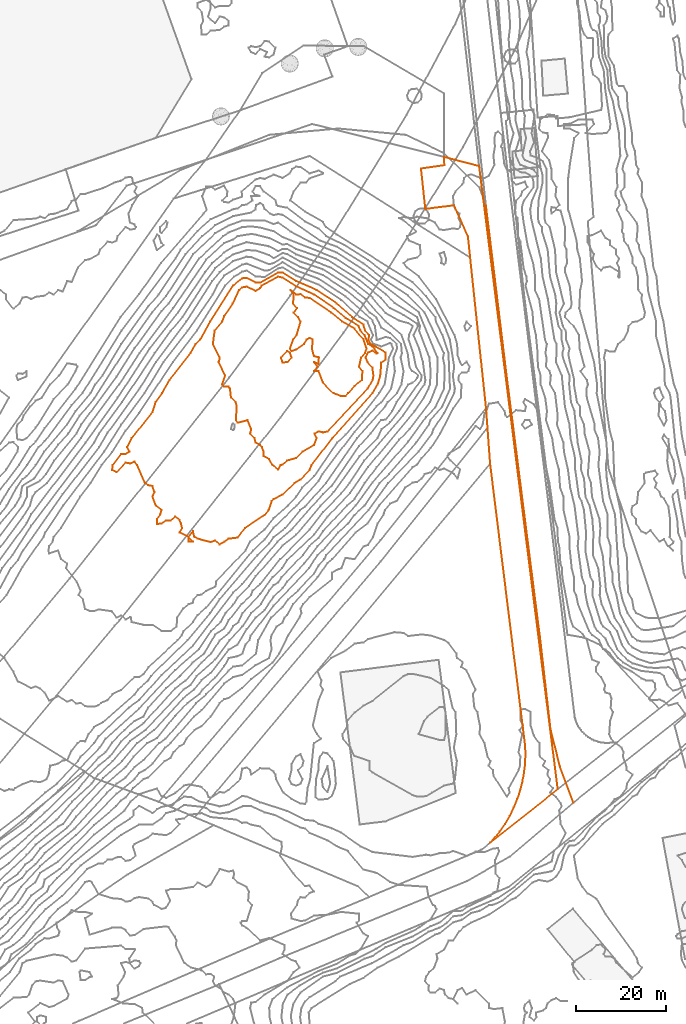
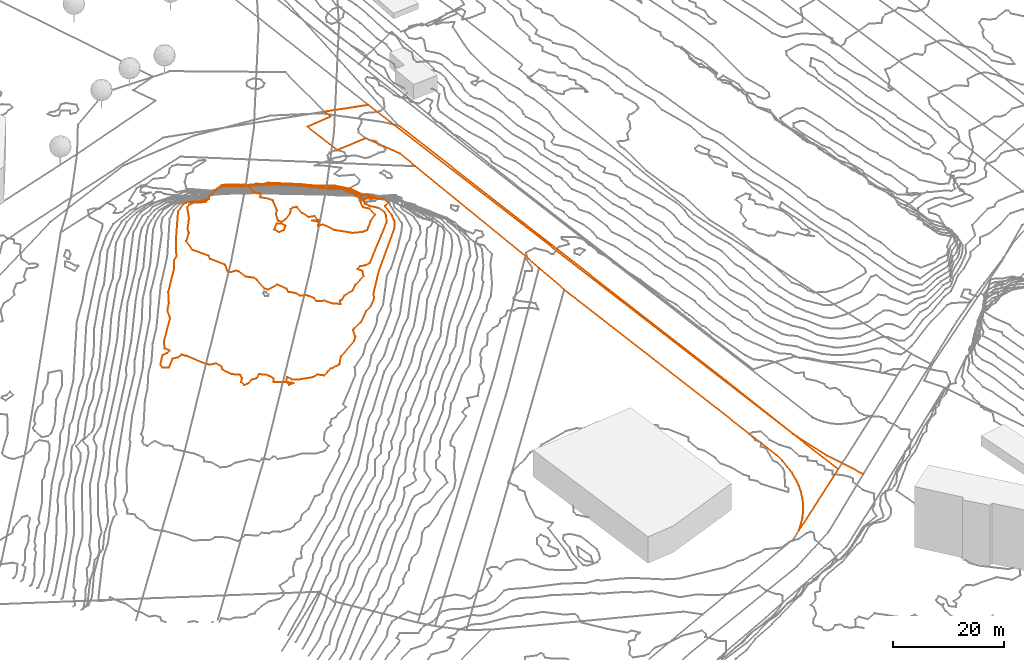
# Not in any storey, part 291 of 419: 6 proxies.
"""IFC2X3 model written with IfcOpenShell, lengths in metres."""

from ifc_helpers import new_model, entity, si_unit, frame, origin_with_axes, place, context, subcontext, project, element, save


model = new_model("IFC2X3")

# Units and contexts
model_context = context("Model", 3, precision=1e-05, world=origin_with_axes())
body_context = subcontext(model_context, "Body", "Model", "MODEL_VIEW")
ifc_project = project(units=[si_unit("AREAUNIT", "SQUARE_METRE"), si_unit("LENGTHUNIT", "METRE")], contexts=[model_context])

# Proxies
proxy_1_placement = place(None, frame((129.3920204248, 826.9976909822, 21.1), z_axis=(0.0, 0.0, 1.0), x_axis=(1.0, 0.0, 0.0)))
element("IfcBuildingElementProxy", 1, at=proxy_1_placement, Name="Route 324", ObjectType="NOTDEFINED", context=body_context, shape_type="GeometricCurveSet", body=[
    entity("IfcGeometricCurveSet", [entity("IfcPolyline", [entity("IfcCartesianPoint", [0.0, 0.0, 0.0]), entity("IfcCartesianPoint", [4.5, -37.0, -0.5]), entity("IfcCartesianPoint", [12.1, -96.6999999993, -1.6]), entity("IfcCartesianPoint", [14.3999999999, -116.7999999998, -1.9]), entity("IfcCartesianPoint", [16.5, -125.2999999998, -2.2]), entity("IfcCartesianPoint", [19.5, -133.2999999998, -2.5])])]),
])
proxy_2_placement = place(None, frame((114.9520204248, 834.9976909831, 21.0961602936), z_axis=(0.0, 0.0, 1.0), x_axis=(1.0, 0.0, 0.0)))
element("IfcBuildingElementProxy", 2, at=proxy_2_placement, Name="Cadastre 384", ObjectType="NOTDEFINED", context=body_context, shape_type="GeometricCurveSet", body=[
    entity("IfcGeometricCurveSet", [entity("IfcPolyline", [entity("IfcCartesianPoint", [15.4, -65.8100000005, -1.2870797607]), entity("IfcCartesianPoint", [14.8100000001, -57.7400000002, -1.2326316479]), entity("IfcCartesianPoint", [14.49, -53.4100000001, -1.1346998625]), entity("IfcCartesianPoint", [10.9500000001, -19.8800000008, -0.4478561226]), entity("IfcCartesianPoint", [10.4600000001, -15.2200000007, -0.3350443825]), entity("IfcCartesianPoint", [7.39, -8.2100000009, -0.1204855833]), entity("IfcCartesianPoint", [0.9600000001, -9.0100000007, 0.0265394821]), entity("IfcCartesianPoint", [0.0, 0.0, 0.0]), entity("IfcCartesianPoint", [5.2100000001, 0.7399999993, -0.0152603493]), entity("IfcCartesianPoint", [5.0800000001, 2.5699999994, 0.0037960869]), entity("IfcCartesianPoint", [12.9500000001, 0.5299999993, -0.0414549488]), entity("IfcCartesianPoint", [30.4600000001, -138.3300000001, -2.0122182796]), entity("IfcCartesianPoint", [15.42, -150.25, -2.9260404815]), entity("IfcCartesianPoint", [17.55, -147.7400000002, -2.673895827]), entity("IfcCartesianPoint", [18.7100000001, -146.0600000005, -2.5531040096]), entity("IfcCartesianPoint", [19.74, -144.29, -2.5109204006]), entity("IfcCartesianPoint", [20.66, -142.4600000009, -2.5761243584]), entity("IfcCartesianPoint", [21.4300000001, -140.5700000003, -2.4609819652]), entity("IfcCartesianPoint", [22.0800000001, -138.6300000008, -2.4031367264]), entity("IfcCartesianPoint", [22.5800000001, -136.6400000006, -2.4181522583]), entity("IfcCartesianPoint", [22.9500000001, -134.6300000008, -2.3727259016]), entity("IfcCartesianPoint", [23.1900000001, -132.5900000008, -2.3193896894]), entity("IfcCartesianPoint", [23.27, -130.5500000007, -2.2561852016]), entity("IfcCartesianPoint", [23.2100000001, -128.7300000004, -2.2255965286]), entity("IfcCartesianPoint", [15.4, -65.8100000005, -1.2870797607])])]),
])
proxy_3_placement = place(None, frame((83.7199280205, 792.8976909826, 35.0), z_axis=(0.0, 0.0, 1.0), x_axis=(1.0, 0.0, 0.0)))
element("IfcBuildingElementProxy", 3, at=proxy_3_placement, Name="Contour 35.0 m", ObjectType="NOTDEFINED", context=body_context, shape_type="GeometricCurveSet", body=[
    entity("IfcGeometricCurveSet", [entity("IfcPolyline", [entity("IfcCartesianPoint", [1.4720943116, -1.0, 0.0]), entity("IfcCartesianPoint", [0.3720924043, -1.1739173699, 0.0]), entity("IfcCartesianPoint", [0.0, 0.0, 0.0]), entity("IfcCartesianPoint", [1.3720924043, 1.4230757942, 0.0]), entity("IfcCartesianPoint", [2.0191472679, 1.0, 0.0]), entity("IfcCartesianPoint", [2.3720979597, 0.0, 0.0]), entity("IfcCartesianPoint", [1.4720943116, -1.0, 0.0])])]),
])
proxy_4_placement = place(None, frame((85.7170224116, 794.8976909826, 35.0), z_axis=(0.0, 0.0, 1.0), x_axis=(1.0, 0.0, 0.0)))
element("IfcBuildingElementProxy", 4, at=proxy_4_placement, Name="Contour 35.0 m", ObjectType="NOTDEFINED", context=body_context, shape_type="GeometricCurveSet", body=[
    entity("IfcGeometricCurveSet", [entity("IfcPolyline", [entity("IfcCartesianPoint", [12.9749929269, -10.0, 0.0]), entity("IfcCartesianPoint", [12.3749980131, -10.5625014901, 0.0]), entity("IfcCartesianPoint", [11.3749980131, -10.6250059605, 0.0]), entity("IfcCartesianPoint", [9.7082889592, -10.0, 0.0]), entity("IfcCartesianPoint", [7.3749980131, -7.5999847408, 0.0]), entity("IfcCartesianPoint", [6.3749980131, -5.000099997, 0.0]), entity("IfcCartesianPoint", [5.3749837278, -5.0, 0.0]), entity("IfcCartesianPoint", [6.1750285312, -4.0, 0.0]), entity("IfcCartesianPoint", [5.3749980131, -2.999900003, 0.0]), entity("IfcCartesianPoint", [6.3749980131, -3.4999499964, 0.0]), entity("IfcCartesianPoint", [6.4583181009, -2.0, 0.0]), entity("IfcCartesianPoint", [5.3749980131, -1.7500238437, 0.0]), entity("IfcCartesianPoint", [4.9464421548, 0.0, 0.0]), entity("IfcCartesianPoint", [5.0892759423, 2.0, 0.0]), entity("IfcCartesianPoint", [4.3749980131, 2.3124955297, 0.0]), entity("IfcCartesianPoint", [3.7499920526, 2.0, 0.0]), entity("IfcCartesianPoint", [3.1083279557, 1.0, 0.0]), entity("IfcCartesianPoint", [1.3749980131, -0.2499952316, 0.0]), entity("IfcCartesianPoint", [0.3749980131, -0.5999949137, 0.0]), entity("IfcCartesianPoint", [0.0, 0.0, 0.0]), entity("IfcCartesianPoint", [0.7228269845, 2.0, 0.0]), entity("IfcCartesianPoint", [1.4821369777, 3.0, 0.0]), entity("IfcCartesianPoint", [2.3749780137, 6.0, 0.0]), entity("IfcCartesianPoint", [1.8749480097, 7.0, 0.0]), entity("IfcCartesianPoint", [0.8749730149, 8.0, 0.0]), entity("IfcCartesianPoint", [1.574967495, 9.0, 0.0]), entity("IfcCartesianPoint", [0.7083313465, 10.0, 0.0]), entity("IfcCartesianPoint", [0.8749480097, 12.0, 0.0]), entity("IfcCartesianPoint", [0.1750285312, 13.0, 0.0]), entity("IfcCartesianPoint", [1.3749980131, 12.032252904, 0.0]), entity("IfcCartesianPoint", [2.3749980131, 12.0684921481, 0.0]), entity("IfcCartesianPoint", [3.3749980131, 11.333333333, 0.0]), entity("IfcCartesianPoint", [4.3749980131, 11.2465759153, 0.0]), entity("IfcCartesianPoint", [9.1527776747, 8.0, 0.0]), entity("IfcCartesianPoint", [11.5931781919, 6.0, 0.0]), entity("IfcCartesianPoint", [14.3749980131, 4.4054055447, 0.0]), entity("IfcCartesianPoint", [16.3749980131, 2.0526326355, 0.0]), entity("IfcCartesianPoint", [17.0874983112, 0.0, 0.0]), entity("IfcCartesianPoint", [16.7163155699, -1.0, 0.0]), entity("IfcCartesianPoint", [15.8911263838, -2.0, 0.0]), entity("IfcCartesianPoint", [15.396733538, -4.0, 0.0]), entity("IfcCartesianPoint", [16.1749980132, -5.0, 0.0]), entity("IfcCartesianPoint", [16.067301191, -7.0, 0.0]), entity("IfcCartesianPoint", [14.3749980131, -8.3793112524, 0.0]), entity("IfcCartesianPoint", [12.9749929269, -10.0, 0.0])])]),
])
proxy_5_placement = place(None, frame((68.5586803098, 795.8976909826, 34.0), z_axis=(0.0, 0.0, 1.0), x_axis=(1.0, 0.0, 0.0)))
element("IfcBuildingElementProxy", 5, at=proxy_5_placement, Name="Contour 34.0 m", ObjectType="NOTDEFINED", context=body_context, shape_type="GeometricCurveSet", body=[
    entity("IfcGeometricCurveSet", [entity("IfcPolyline", [entity("IfcCartesianPoint", [14.5333463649, -28.0, 0.0]), entity("IfcCartesianPoint", [13.2833639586, -27.0, 0.0]), entity("IfcCartesianPoint", [12.533340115, -25.6667090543, 0.0]), entity("IfcCartesianPoint", [11.3111131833, -25.0, 0.0]), entity("IfcCartesianPoint", [11.3333706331, -24.0, 0.0]), entity("IfcCartesianPoint", [10.9083341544, -23.0, 0.0]), entity("IfcCartesianPoint", [10.533340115, -22.5000166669, 0.0]), entity("IfcCartesianPoint", [9.533340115, -22.0000249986, 0.0]), entity("IfcCartesianPoint", [9.2833639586, -21.0, 0.0]), entity("IfcCartesianPoint", [8.3333706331, -20.0, 0.0]), entity("IfcCartesianPoint", [8.5333258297, -19.0, 0.0]), entity("IfcCartesianPoint", [7.7333095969, -17.0, 0.0]), entity("IfcCartesianPoint", [5.533340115, -17.5555461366, 0.0]), entity("IfcCartesianPoint", [5.1166760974, -17.0, 0.0]), entity("IfcCartesianPoint", [5.3333706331, -14.0, 0.0]), entity("IfcCartesianPoint", [5.1047842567, -13.0, 0.0]), entity("IfcCartesianPoint", [4.0333234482, -12.0, 0.0]), entity("IfcCartesianPoint", [3.8190621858, -10.0, 0.0]), entity("IfcCartesianPoint", [3.533340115, -9.5000249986, 0.0]), entity("IfcCartesianPoint", [2.533340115, -9.5000500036, 0.0]), entity("IfcCartesianPoint", [2.0332901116, -9.0, 0.0]), entity("IfcCartesianPoint", [2.7333095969, -7.0, 0.0]), entity("IfcCartesianPoint", [1.3111131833, -4.0, 0.0]), entity("IfcCartesianPoint", [1.5333151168, -3.0, 0.0]), entity("IfcCartesianPoint", [0.0, 0.0, 0.0]), entity("IfcCartesianPoint", [0.4017635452, 3.0, 0.0]), entity("IfcCartesianPoint", [2.0833410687, 5.0, 0.0]), entity("IfcCartesianPoint", [2.533340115, 6.2380926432, 0.0]), entity("IfcCartesianPoint", [4.4395938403, 9.0, 0.0]), entity("IfcCartesianPoint", [5.8000101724, 12.0, 0.0]), entity("IfcCartesianPoint", [6.533340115, 12.5945934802, 0.0]), entity("IfcCartesianPoint", [7.533340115, 12.75, 0.0]), entity("IfcCartesianPoint", [9.533340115, 11.8253961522, 0.0]), entity("IfcCartesianPoint", [10.533340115, 12.4146298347, 0.0]), entity("IfcCartesianPoint", [10.8713692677, 13.0, 0.0]), entity("IfcCartesianPoint", [14.533340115, 15.0091727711, 0.0]), entity("IfcCartesianPoint", [15.533340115, 14.7499989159, 0.0]), entity("IfcCartesianPoint", [18.533340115, 12.8333340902, 0.0]), entity("IfcCartesianPoint", [22.533340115, 11.0000014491, 0.0]), entity("IfcCartesianPoint", [26.9500087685, 8.0, 0.0]), entity("IfcCartesianPoint", [29.533340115, 5.7702720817, 0.0]), entity("IfcCartesianPoint", [32.5157991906, 4.0, 0.0]), entity("IfcCartesianPoint", [32.8735477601, 3.0, 0.0]), entity("IfcCartesianPoint", [33.8190532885, 2.0, 0.0]), entity("IfcCartesianPoint", [34.6378173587, 0.0, 0.0]), entity("IfcCartesianPoint", [35.9845584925, -1.0, 0.0]), entity("IfcCartesianPoint", [36.6679547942, -2.0, 0.0]), entity("IfcCartesianPoint", [36.533340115, -2.1707310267, 0.0]), entity("IfcCartesianPoint", [35.533340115, -1.5138892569, 0.0]), entity("IfcCartesianPoint", [34.533340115, -1.8850590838, 0.0]), entity("IfcCartesianPoint", [34.0621850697, -3.0, 0.0]), entity("IfcCartesianPoint", [34.4777928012, -4.0, 0.0]), entity("IfcCartesianPoint", [35.533340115, -5.3124955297, 0.0]), entity("IfcCartesianPoint", [35.7980463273, -7.0, 0.0]), entity("IfcCartesianPoint", [35.6037616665, -8.0, 0.0]), entity("IfcCartesianPoint", [34.4695125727, -10.0, 0.0]), entity("IfcCartesianPoint", [25.533340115, -19.5000045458, 0.0]), entity("IfcCartesianPoint", [24.533340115, -19.7142818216, 0.0]), entity("IfcCartesianPoint", [23.533340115, -19.48780692, 0.0]), entity("IfcCartesianPoint", [22.6583361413, -20.0, 0.0]), entity("IfcCartesianPoint", [23.12473695, -21.0, 0.0]), entity("IfcCartesianPoint", [22.533340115, -22.5000021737, 0.0]), entity("IfcCartesianPoint", [19.9777939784, -24.0, 0.0]), entity("IfcCartesianPoint", [18.533340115, -25.4166640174, 0.0]), entity("IfcCartesianPoint", [16.5333601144, -26.0, 0.0]), entity("IfcCartesianPoint", [15.533340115, -26.9000152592, 0.0]), entity("IfcCartesianPoint", [15.0333901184, -27.0, 0.0]), entity("IfcCartesianPoint", [14.5333463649, -28.0, 0.0])])]),
])
proxy_6_placement = place(None, frame((46.0920204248, 767.8067945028, 33.0), z_axis=(0.0, 0.0, 1.0), x_axis=(1.0, 0.0, 0.0)))
element("IfcBuildingElementProxy", 6, at=proxy_6_placement, Name="Contour 33.0 m", ObjectType="NOTDEFINED", context=body_context, shape_type="GeometricCurveSet", body=[
    entity("IfcGeometricCurveSet", [entity("IfcPolyline", [entity("IfcCartesianPoint", [25.1249821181, -15.9091035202, 0.0]), entity("IfcCartesianPoint", [24.0, -16.5757843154, 0.0]), entity("IfcCartesianPoint", [23.0, -15.7424580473, 0.0]), entity("IfcCartesianPoint", [22.0, -16.0757489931, 0.0]), entity("IfcCartesianPoint", [19.0, -15.3091187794, 0.0]), entity("IfcCartesianPoint", [18.3332909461, -14.9091035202, 0.0]), entity("IfcCartesianPoint", [18.0, -13.6591273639, 0.0]), entity("IfcCartesianPoint", [17.0000999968, -14.9091035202, 0.0]), entity("IfcCartesianPoint", [18.0000333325, -15.9091035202, 0.0]), entity("IfcCartesianPoint", [17.0, -15.9757600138, 0.0]), entity("IfcCartesianPoint", [16.9999500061, -14.9091035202, 0.0]), entity("IfcCartesianPoint", [14.9999875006, -13.9091035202, 0.0]), entity("IfcCartesianPoint", [15.6250059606, -12.9091035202, 0.0]), entity("IfcCartesianPoint", [15.3636426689, -11.9091035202, 0.0]), entity("IfcCartesianPoint", [15.0, -11.1090730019, 0.0]), entity("IfcCartesianPoint", [14.0, -10.4091201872, 0.0]), entity("IfcCartesianPoint", [13.0, -11.2840975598, 0.0]), entity("IfcCartesianPoint", [12.0, -11.2424368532, 0.0]), entity("IfcCartesianPoint", [11.0000249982, -11.9091035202, 0.0]), entity("IfcCartesianPoint", [10.0, -12.0519373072, 0.0]), entity("IfcCartesianPoint", [10.0, -10.9090701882, 0.0]), entity("IfcCartesianPoint", [10.7500238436, -9.9091035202, 0.0]), entity("IfcCartesianPoint", [10.9999666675, -8.9091035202, 0.0]), entity("IfcCartesianPoint", [9.7500238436, -7.9091035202, 0.0]), entity("IfcCartesianPoint", [8.9999800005, -5.9091035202, 0.0]), entity("IfcCartesianPoint", [9.4285558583, -4.9091035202, 0.0]), entity("IfcCartesianPoint", [9.0, -3.5758125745, 0.0]), entity("IfcCartesianPoint", [8.0, -3.4091285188, 0.0]), entity("IfcCartesianPoint", [7.3332909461, -2.9091035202, 0.0]), entity("IfcCartesianPoint", [5.599984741, 1.0908964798, 0.0]), entity("IfcCartesianPoint", [5.0, 1.8409203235, 0.0]), entity("IfcCartesianPoint", [4.0, 1.4658905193, 0.0]), entity("IfcCartesianPoint", [3.0, 1.6293512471, 0.0]), entity("IfcCartesianPoint", [1.0, -0.5091035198, 0.0]), entity("IfcCartesianPoint", [0.0, 0.0, 0.0]), entity("IfcCartesianPoint", [0.1612891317, 1.0908964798, 0.0]), entity("IfcCartesianPoint", [2.0, 3.5242344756, 0.0]), entity("IfcCartesianPoint", [3.0, 3.5909010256, 0.0]), entity("IfcCartesianPoint", [3.846151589, 4.0908964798, 0.0]), entity("IfcCartesianPoint", [3.3461566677, 5.0908964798, 0.0]), entity("IfcCartesianPoint", [4.379311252, 7.0908964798, 0.0]), entity("IfcCartesianPoint", [9.0, 12.9090751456, 0.0]), entity("IfcCartesianPoint", [9.7045446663, 15.0908964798, 0.0]), entity("IfcCartesianPoint", [11.157897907, 17.0908964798, 0.0]), entity("IfcCartesianPoint", [12.7636340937, 20.0908964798, 0.0]), entity("IfcCartesianPoint", [17.4705875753, 26.0908964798, 0.0]), entity("IfcCartesianPoint", [18.5777779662, 28.0908964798, 0.0]), entity("IfcCartesianPoint", [19.658537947, 29.0908964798, 0.0]), entity("IfcCartesianPoint", [21.847457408, 33.0908964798, 0.0]), entity("IfcCartesianPoint", [26.9218761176, 41.0908964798, 0.0]), entity("IfcCartesianPoint", [29.0, 42.7099420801, 0.0]), entity("IfcCartesianPoint", [30.0, 42.7818084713, 0.0]), entity("IfcCartesianPoint", [32.0, 41.788568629, 0.0]), entity("IfcCartesianPoint", [33.0, 41.7295512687, 0.0]), entity("IfcCartesianPoint", [37.0, 44.0175003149, 0.0]), entity("IfcCartesianPoint", [38.0, 43.9772614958, 0.0]), entity("IfcCartesianPoint", [41.0, 42.1027992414, 0.0]), entity("IfcCartesianPoint", [45.6200027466, 40.0908964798, 0.0]), entity("IfcCartesianPoint", [50.0800018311, 37.0908964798, 0.0]), entity("IfcCartesianPoint", [53.431033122, 34.0908964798, 0.0]), entity("IfcCartesianPoint", [56.0, 32.3807516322, 0.0]), entity("IfcCartesianPoint", [56.4186050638, 31.0908964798, 0.0]), entity("IfcCartesianPoint", [57.2884605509, 30.0908964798, 0.0]), entity("IfcCartesianPoint", [57.1468918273, 29.0908964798, 0.0]), entity("IfcCartesianPoint", [57.601990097, 28.0908964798, 0.0]), entity("IfcCartesianPoint", [61.0, 26.1449519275, 0.0]), entity("IfcCartesianPoint", [61.0, 24.5908914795, 0.0]), entity("IfcCartesianPoint", [60.0, 23.8909015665, 0.0]), entity("IfcCartesianPoint", [59.7692289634, 21.0908964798, 0.0]), entity("IfcCartesianPoint", [59.1774206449, 19.0908964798, 0.0]), entity("IfcCartesianPoint", [58.0447744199, 17.0908964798, 0.0]), entity("IfcCartesianPoint", [49.0, 7.0211319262, 0.0]), entity("IfcCartesianPoint", [44.4193564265, 1.0908964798, 0.0]), entity("IfcCartesianPoint", [44.0, 0.0242281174, 0.0]), entity("IfcCartesianPoint", [42.0, -2.0868850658, 0.0]), entity("IfcCartesianPoint", [40.6249910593, -2.9091035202, 0.0]), entity("IfcCartesianPoint", [38.0, -5.4716050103, 0.0]), entity("IfcCartesianPoint", [36.0, -6.488046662, 0.0]), entity("IfcCartesianPoint", [35.5999923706, -6.9091035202, 0.0]), entity("IfcCartesianPoint", [34.894733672, -8.9091035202, 0.0]), entity("IfcCartesianPoint", [34.0, -10.0, 0.0]), entity("IfcCartesianPoint", [29.599984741, -12.9091035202, 0.0]), entity("IfcCartesianPoint", [28.0, -15.0757754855, 0.0]), entity("IfcCartesianPoint", [26.0, -15.3257675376, 0.0]), entity("IfcCartesianPoint", [25.1249821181, -15.9091035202, 0.0])])]),
])

save(model, "model.ifc")
